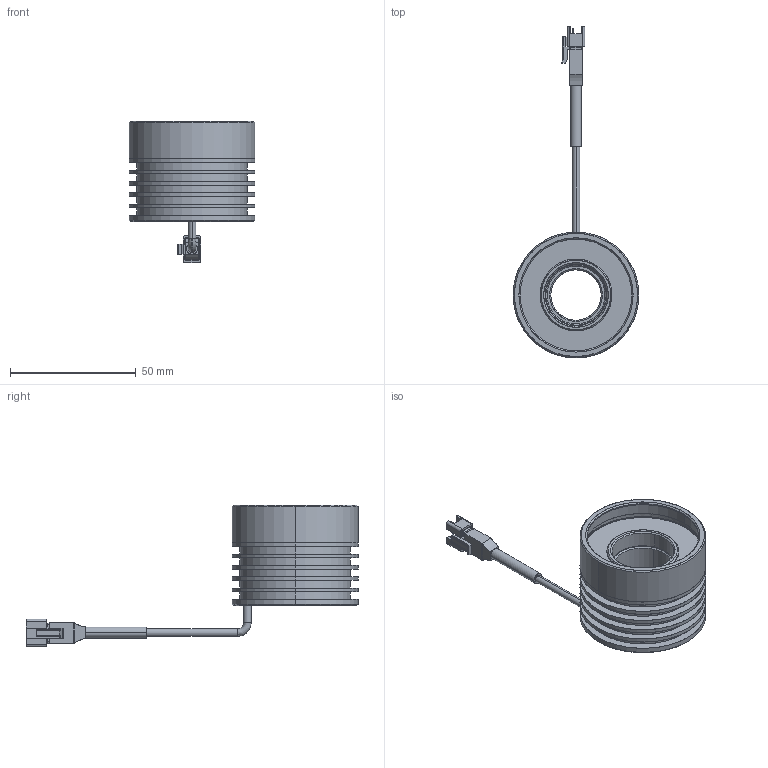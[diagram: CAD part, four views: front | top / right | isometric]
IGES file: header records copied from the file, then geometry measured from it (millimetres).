
Start section: SolidWorks IGES file using analytic representation for surfaces
Global section: file name: C:\Users\88691\Desktop\VOR (VHAT)\VOR-5026W-TCH65 (L1651A) VOR-5026W-TCH65CO (L1654A)\VOR-5026W-TCH65CO _ Drawing _ L1654A-A00101.IGS; native system: SolidWorks 2020; preprocessor: SolidWorks 2020; author: 88691; date: 251023.142018; units: millimetre
Bounding box: 50 x 132 x 56.42 mm (x, y, z)
Surface area: 27102.8 mm2 (no closed solid volume)
Topology: 0 solids, 0 shells, 357 faces, 5889 edges, 5889 vertices
Faces by surface type: bspline 182, revolution 175
